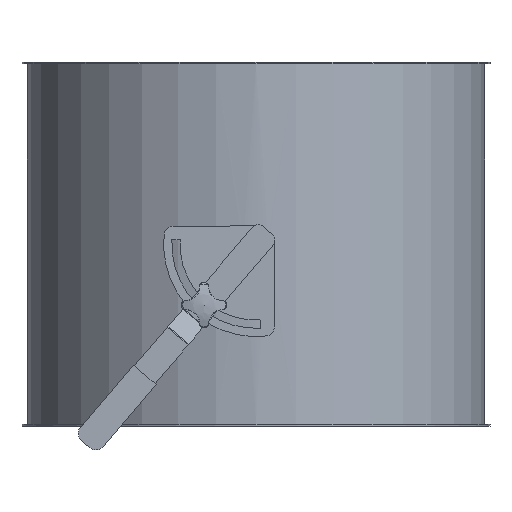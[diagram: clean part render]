
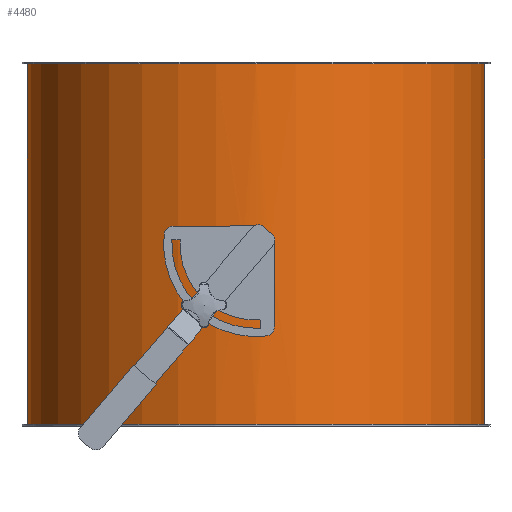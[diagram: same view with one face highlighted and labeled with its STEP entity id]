
A CAD part, left-side view. The second image highlights one B-rep face of the part: STEP entity #4480.
In plain terms, the highlighted cylindrical face has radius 251 mm (diameter 502 mm), a full revolution.
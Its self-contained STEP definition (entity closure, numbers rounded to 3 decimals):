
#4371=CARTESIAN_POINT('',(250.268,19.157,200.0));
#4372=VERTEX_POINT('',#4371);
#4382=CARTESIAN_POINT('',(250.268,19.155,200.));
#4383=CARTESIAN_POINT('',(250.268,19.155,200.002));
#4384=CARTESIAN_POINT('',(250.268,19.155,200.004));
#4385=CARTESIAN_POINT('',(250.268,19.155,200.006));
#4386=CARTESIAN_POINT('',(250.268,19.154,202.908));
#4387=CARTESIAN_POINT('',(250.371,17.873,208.698));
#4388=CARTESIAN_POINT('',(250.727,12.367,215.75));
#4389=CARTESIAN_POINT('',(251.011,4.448,219.649));
#4390=CARTESIAN_POINT('',(251.011,-4.393,219.662));
#4391=CARTESIAN_POINT('',(250.73,-12.325,215.779));
#4392=CARTESIAN_POINT('',(250.331,-18.462,207.995));
#4393=CARTESIAN_POINT('',(250.215,-19.806,198.95));
#4394=CARTESIAN_POINT('',(250.436,-16.961,189.529));
#4395=CARTESIAN_POINT('',(250.775,-11.536,183.584));
#4396=CARTESIAN_POINT('',(251.011,-3.439,180.345));
#4397=CARTESIAN_POINT('',(251.011,4.396,180.34));
#4398=CARTESIAN_POINT('',(250.727,12.348,184.228));
#4399=CARTESIAN_POINT('',(250.433,16.931,190.088));
#4400=CARTESIAN_POINT('',(250.293,18.829,195.615));
#4401=CARTESIAN_POINT('',(250.268,19.155,198.551));
#4402=CARTESIAN_POINT('',(250.268,19.155,200.));
#4403=B_SPLINE_CURVE_WITH_KNOTS('',3,(#4382,#4383,#4384,#4385,#4386,#4387,#4388,#4389,#4390,#4391,#4392,#4393,#4394,#4395,#4396,#4397,#4398,#4399,#4400,#4401,#4402),.UNSPECIFIED.,.T.,.U.,(4,3,1,1,1,1,1,1,1,1,1,1,1,1,1,1,4),(-9.043,-9.043,-8.397,-7.751,-7.105,-6.459,-5.813,-5.167,-4.306,-3.875,-3.014,-2.584,-1.938,-1.292,-0.646,-0.323,0.),.UNSPECIFIED.);
#4404=EDGE_CURVE('',#4372,#4372,#4403,.T.);
#4409=CARTESIAN_POINT('',(0.0,0.0,0.0));
#4410=DIRECTION('',(0.0,0.0,1.0));
#4411=DIRECTION('',(-1.0,0.0,0.0));
#4412=AXIS2_PLACEMENT_3D('',#4409,#4410,#4411);
#4413=CYLINDRICAL_SURFACE('',#4412,251.0);
#4414=CARTESIAN_POINT('',(251.0,0.,398.0));
#4415=VERTEX_POINT('',#4414);
#4416=CARTESIAN_POINT('',(0.0,0.0,398.0));
#4417=DIRECTION('',(0.0,0.0,-1.0));
#4418=DIRECTION('',(-1.0,0.0,0.0));
#4419=AXIS2_PLACEMENT_3D('',#4416,#4417,#4418);
#4420=CIRCLE('',#4419,251.0);
#4421=EDGE_CURVE('',#4415,#4415,#4420,.T.);
#4422=ORIENTED_EDGE('',*,*,#4421,.T.);
#4423=EDGE_LOOP('',(#4422));
#4424=FACE_OUTER_BOUND('',#4423,.T.);
#4425=CARTESIAN_POINT('',(-251.0,0.,2.0));
#4426=VERTEX_POINT('',#4425);
#4427=CARTESIAN_POINT('',(0.0,0.0,2.0));
#4428=DIRECTION('',(0.0,0.0,1.0));
#4429=DIRECTION('',(-1.0,0.0,0.0));
#4430=AXIS2_PLACEMENT_3D('',#4427,#4428,#4429);
#4431=CIRCLE('',#4430,251.0);
#4432=EDGE_CURVE('',#4426,#4426,#4431,.T.);
#4433=ORIENTED_EDGE('',*,*,#4432,.T.);
#4434=EDGE_LOOP('',(#4433));
#4435=FACE_BOUND('',#4434,.T.);
#4436=CARTESIAN_POINT('',(-250.551,15.0,200.0));
#4437=VERTEX_POINT('',#4436);
#4438=CARTESIAN_POINT('',(-250.551,15.0,200.0));
#4439=CARTESIAN_POINT('',(-250.551,15.0,201.884));
#4440=CARTESIAN_POINT('',(-250.575,14.623,203.893));
#4441=CARTESIAN_POINT('',(-250.659,13.092,207.589));
#4442=CARTESIAN_POINT('',(-250.719,11.938,209.275));
#4443=CARTESIAN_POINT('',(-250.832,9.275,211.938));
#4444=CARTESIAN_POINT('',(-250.892,7.589,213.092));
#4445=CARTESIAN_POINT('',(-250.977,3.893,214.623));
#4446=CARTESIAN_POINT('',(-251.0,1.884,215.0));
#4447=CARTESIAN_POINT('',(-251.0,-1.884,215.0));
#4448=CARTESIAN_POINT('',(-250.977,-3.893,214.623));
#4449=CARTESIAN_POINT('',(-250.892,-7.589,213.092));
#4450=CARTESIAN_POINT('',(-250.832,-9.275,211.938));
#4451=CARTESIAN_POINT('',(-250.719,-11.938,209.275));
#4452=CARTESIAN_POINT('',(-250.659,-13.092,207.589));
#4453=CARTESIAN_POINT('',(-250.575,-14.623,203.893));
#4454=CARTESIAN_POINT('',(-250.551,-15.0,201.884));
#4455=CARTESIAN_POINT('',(-250.551,-15.0,198.116));
#4456=CARTESIAN_POINT('',(-250.575,-14.623,196.107));
#4457=CARTESIAN_POINT('',(-250.659,-13.092,192.411));
#4458=CARTESIAN_POINT('',(-250.719,-11.938,190.725));
#4459=CARTESIAN_POINT('',(-250.832,-9.275,188.062));
#4460=CARTESIAN_POINT('',(-250.892,-7.589,186.908));
#4461=CARTESIAN_POINT('',(-250.977,-3.893,185.377));
#4462=CARTESIAN_POINT('',(-251.0,-1.884,185.0));
#4463=CARTESIAN_POINT('',(-251.0,1.884,185.0));
#4464=CARTESIAN_POINT('',(-250.977,3.893,185.377));
#4465=CARTESIAN_POINT('',(-250.892,7.589,186.908));
#4466=CARTESIAN_POINT('',(-250.832,9.275,188.062));
#4467=CARTESIAN_POINT('',(-250.719,11.938,190.725));
#4468=CARTESIAN_POINT('',(-250.659,13.092,192.411));
#4469=CARTESIAN_POINT('',(-250.575,14.623,196.107));
#4470=CARTESIAN_POINT('',(-250.551,15.0,198.116));
#4471=CARTESIAN_POINT('',(-250.551,15.0,200.0));
#4472=B_SPLINE_CURVE_WITH_KNOTS('',3,(#4438,#4439,#4440,#4441,#4442,#4443,#4444,#4445,#4446,#4447,#4448,#4449,#4450,#4451,#4452,#4453,#4454,#4455,#4456,#4457,#4458,#4459,#4460,#4461,#4462,#4463,#4464,#4465,#4466,#4467,#4468,#4469,#4470,#4471),.UNSPECIFIED.,.T.,.U.,(4,2,2,2,2,2,2,2,2,2,2,2,2,2,2,2,4),(0.0,0.565,1.13,1.696,2.261,2.826,3.391,3.956,4.521,5.087,5.652,6.217,6.782,7.347,7.912,8.478,9.043),.UNSPECIFIED.);
#4473=EDGE_CURVE('',#4437,#4437,#4472,.T.);
#4474=ORIENTED_EDGE('',*,*,#4473,.T.);
#4475=EDGE_LOOP('',(#4474));
#4476=FACE_BOUND('',#4475,.T.);
#4477=ORIENTED_EDGE('',*,*,#4404,.F.);
#4478=EDGE_LOOP('',(#4477));
#4479=FACE_BOUND('',#4478,.T.);
#4480=ADVANCED_FACE('',(#4424,#4435,#4476,#4479),#4413,.T.);
